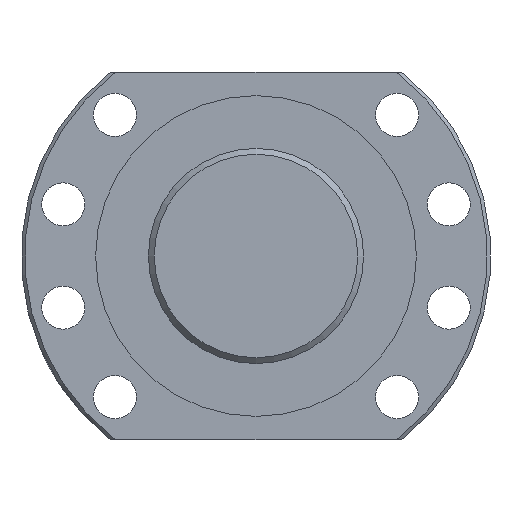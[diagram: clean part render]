
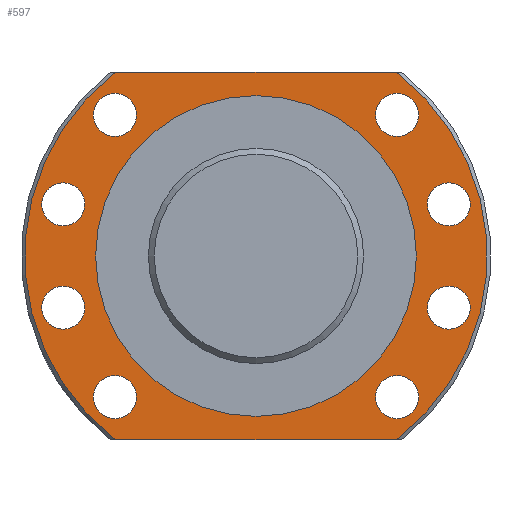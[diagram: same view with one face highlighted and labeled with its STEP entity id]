
A CAD part, left-side view. The second image highlights one B-rep face of the part: STEP entity #597.
In plain terms, the highlighted planar face has unit normal (-1, 0, 0).
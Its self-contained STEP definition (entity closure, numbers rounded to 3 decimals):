
#24=LINE('',#1102,#32);
#25=LINE('',#1103,#33);
#32=VECTOR('',#879,1000.);
#33=VECTOR('',#880,1000.);
#159=ORIENTED_EDGE('',*,*,#263,.T.);
#160=ORIENTED_EDGE('',*,*,#264,.T.);
#161=ORIENTED_EDGE('',*,*,#265,.T.);
#162=ORIENTED_EDGE('',*,*,#266,.T.);
#163=ORIENTED_EDGE('',*,*,#267,.T.);
#164=ORIENTED_EDGE('',*,*,#268,.T.);
#165=ORIENTED_EDGE('',*,*,#269,.T.);
#166=ORIENTED_EDGE('',*,*,#270,.T.);
#167=ORIENTED_EDGE('',*,*,#271,.T.);
#168=ORIENTED_EDGE('',*,*,#272,.F.);
#169=ORIENTED_EDGE('',*,*,#233,.F.);
#170=ORIENTED_EDGE('',*,*,#273,.F.);
#171=ORIENTED_EDGE('',*,*,#261,.F.);
#233=EDGE_CURVE('',#295,#294,#343,.T.);
#261=EDGE_CURVE('',#319,#320,#366,.T.);
#263=EDGE_CURVE('',#321,#321,#367,.T.);
#264=EDGE_CURVE('',#322,#322,#368,.F.);
#265=EDGE_CURVE('',#323,#323,#369,.F.);
#266=EDGE_CURVE('',#324,#324,#370,.F.);
#267=EDGE_CURVE('',#325,#325,#371,.F.);
#268=EDGE_CURVE('',#326,#326,#372,.F.);
#269=EDGE_CURVE('',#327,#327,#373,.F.);
#270=EDGE_CURVE('',#328,#328,#374,.F.);
#271=EDGE_CURVE('',#329,#329,#375,.F.);
#272=EDGE_CURVE('',#294,#319,#24,.T.);
#273=EDGE_CURVE('',#320,#295,#25,.T.);
#294=VERTEX_POINT('',#994);
#295=VERTEX_POINT('',#999);
#319=VERTEX_POINT('',#1076);
#320=VERTEX_POINT('',#1078);
#321=VERTEX_POINT('',#1085);
#322=VERTEX_POINT('',#1087);
#323=VERTEX_POINT('',#1089);
#324=VERTEX_POINT('',#1091);
#325=VERTEX_POINT('',#1093);
#326=VERTEX_POINT('',#1095);
#327=VERTEX_POINT('',#1097);
#328=VERTEX_POINT('',#1099);
#329=VERTEX_POINT('',#1101);
#343=CIRCLE('',#660,59.1);
#366=CIRCLE('',#699,59.1);
#367=CIRCLE('',#701,41.);
#368=CIRCLE('',#702,5.5);
#369=CIRCLE('',#703,5.5);
#370=CIRCLE('',#704,5.5);
#371=CIRCLE('',#705,5.5);
#372=CIRCLE('',#706,5.5);
#373=CIRCLE('',#707,5.5);
#374=CIRCLE('',#708,5.5);
#375=CIRCLE('',#709,5.5);
#432=EDGE_LOOP('',(#159));
#433=EDGE_LOOP('',(#160));
#434=EDGE_LOOP('',(#161));
#435=EDGE_LOOP('',(#162));
#436=EDGE_LOOP('',(#163));
#437=EDGE_LOOP('',(#164));
#438=EDGE_LOOP('',(#165));
#439=EDGE_LOOP('',(#166));
#440=EDGE_LOOP('',(#167));
#441=EDGE_LOOP('',(#168,#169,#170,#171));
#522=FACE_BOUND('',#432,.T.);
#523=FACE_BOUND('',#433,.T.);
#524=FACE_BOUND('',#434,.T.);
#525=FACE_BOUND('',#435,.T.);
#526=FACE_BOUND('',#436,.T.);
#527=FACE_BOUND('',#437,.T.);
#528=FACE_BOUND('',#438,.T.);
#529=FACE_BOUND('',#439,.T.);
#530=FACE_BOUND('',#440,.T.);
#531=FACE_BOUND('',#441,.T.);
#568=PLANE('',#700);
#597=ADVANCED_FACE('',(#522,#523,#524,#525,#526,#527,#528,#529,#530,#531),
#568,.T.);
#660=AXIS2_PLACEMENT_3D('',#1000,#777,#778);
#699=AXIS2_PLACEMENT_3D('',#1077,#857,#858);
#700=AXIS2_PLACEMENT_3D('',#1083,#859,#860);
#701=AXIS2_PLACEMENT_3D('',#1084,#861,#862);
#702=AXIS2_PLACEMENT_3D('',#1086,#863,#864);
#703=AXIS2_PLACEMENT_3D('',#1088,#865,#866);
#704=AXIS2_PLACEMENT_3D('',#1090,#867,#868);
#705=AXIS2_PLACEMENT_3D('',#1092,#869,#870);
#706=AXIS2_PLACEMENT_3D('',#1094,#871,#872);
#707=AXIS2_PLACEMENT_3D('',#1096,#873,#874);
#708=AXIS2_PLACEMENT_3D('',#1098,#875,#876);
#709=AXIS2_PLACEMENT_3D('',#1100,#877,#878);
#777=DIRECTION('',(1.,0.,0.));
#778=DIRECTION('',(0.,0.,-1.));
#857=DIRECTION('',(1.,0.,0.));
#858=DIRECTION('',(0.,0.,-1.));
#859=DIRECTION('',(-1.,0.,0.));
#860=DIRECTION('',(0.,0.,1.));
#861=DIRECTION('',(1.,0.,0.));
#862=DIRECTION('',(0.,0.,-1.));
#863=DIRECTION('',(-1.,0.,0.));
#864=DIRECTION('',(0.,0.,1.));
#865=DIRECTION('',(-1.,0.,0.));
#866=DIRECTION('',(0.,0.,1.));
#867=DIRECTION('',(-1.,0.,0.));
#868=DIRECTION('',(0.,0.,1.));
#869=DIRECTION('',(-1.,0.,0.));
#870=DIRECTION('',(0.,0.,1.));
#871=DIRECTION('',(-1.,0.,0.));
#872=DIRECTION('',(0.,0.,1.));
#873=DIRECTION('',(-1.,0.,0.));
#874=DIRECTION('',(0.,0.,1.));
#875=DIRECTION('',(-1.,0.,0.));
#876=DIRECTION('',(0.,0.,1.));
#877=DIRECTION('',(-1.,0.,0.));
#878=DIRECTION('',(0.,0.,1.));
#879=DIRECTION('',(0.,1.,0.));
#880=DIRECTION('',(0.,-1.,0.));
#994=CARTESIAN_POINT('',(0.5,-35.83,-47.));
#999=CARTESIAN_POINT('',(0.5,-35.83,47.));
#1000=CARTESIAN_POINT('',(0.5,0.,0.));
#1076=CARTESIAN_POINT('',(0.5,35.83,-47.));
#1077=CARTESIAN_POINT('',(0.5,0.,0.));
#1078=CARTESIAN_POINT('',(0.5,35.83,47.));
#1083=CARTESIAN_POINT('',(0.5,59.1,0.));
#1084=CARTESIAN_POINT('',(0.5,0.,0.));
#1085=CARTESIAN_POINT('',(0.5,0.,-41.));
#1086=CARTESIAN_POINT('',(0.5,-36.062,36.062));
#1087=CARTESIAN_POINT('',(0.5,-36.062,41.562));
#1088=CARTESIAN_POINT('',(0.5,36.062,-36.062));
#1089=CARTESIAN_POINT('',(0.5,36.062,-30.562));
#1090=CARTESIAN_POINT('',(0.5,-36.062,-36.062));
#1091=CARTESIAN_POINT('',(0.5,-36.062,-30.562));
#1092=CARTESIAN_POINT('',(0.5,36.062,36.062));
#1093=CARTESIAN_POINT('',(0.5,36.062,41.562));
#1094=CARTESIAN_POINT('',(0.5,49.262,-13.2));
#1095=CARTESIAN_POINT('',(0.5,49.262,-7.7));
#1096=CARTESIAN_POINT('',(0.5,-49.262,13.2));
#1097=CARTESIAN_POINT('',(0.5,-49.262,18.7));
#1098=CARTESIAN_POINT('',(0.5,49.262,13.2));
#1099=CARTESIAN_POINT('',(0.5,49.262,18.7));
#1100=CARTESIAN_POINT('',(0.5,-49.262,-13.2));
#1101=CARTESIAN_POINT('',(0.5,-49.262,-7.7));
#1102=CARTESIAN_POINT('',(0.5,59.1,-47.));
#1103=CARTESIAN_POINT('',(0.5,59.1,47.));
